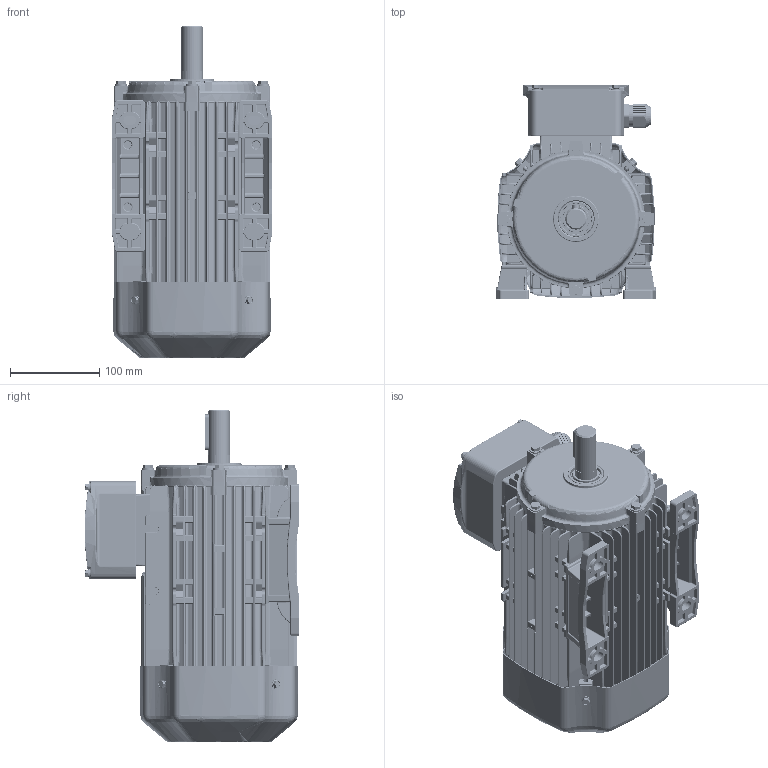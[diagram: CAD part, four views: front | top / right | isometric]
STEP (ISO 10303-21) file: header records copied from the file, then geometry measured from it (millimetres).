
FILE_DESCRIPTION (( 'STEP AP214' ), '1' );
FILE_NAME ('IE3-90L-B3.STEP', '2015-05-24T07:32:35', ( '微软用户' ), ( '微软中国' ), 'SwSTEP 2.0', 'SolidWorks 2014', '' );
FILE_SCHEMA (( 'AUTOMOTIVE_DESIGN' ));
Length unit declared in the file: millimetre
Products named in the file (1): IE3-90L-B3
Bounding box: 180 x 241.04 x 373 mm (x, y, z)
Volume: 5702371.9 mm3; surface area: 749063.5 mm2
Topology: 38 solids, 40 shells, 6818 faces, 17635 edges, 10867 vertices
Faces by surface type: plane 2654, cylinder 2272, bspline 904, torus 581, cone 248, sphere 159
Entity records: 336056 total; most frequent: CARTESIAN_POINT 103869, ORIENTED_EDGE 34888, DIRECTION 30278, EDGE_CURVE 17444, AXIS2_PLACEMENT_3D 11149, VERTEX_POINT 10866, LINE 7980, VECTOR 7980
